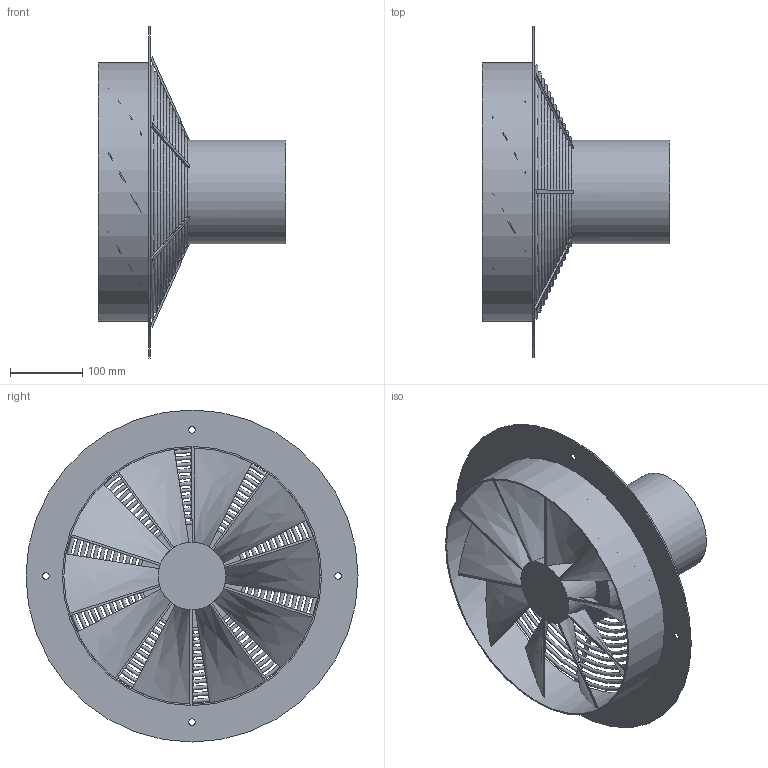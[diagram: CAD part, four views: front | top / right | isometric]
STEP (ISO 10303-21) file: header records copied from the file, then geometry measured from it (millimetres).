
FILE_DESCRIPTION(/* description */ (''),/* implementation_level */ '2;1');
FILE_NAME(/* name */ 'Z:\Output\HWW 355-4-01006-021.stp',/* time_stamp */ '2017-06-08T19:39:26+02:00',/* author */ ('Engineering1'),/* organization */ (''),/* preprocessor_version */ 'ST-DEVELOPER v16.5',/* originating_system */ 'Autodesk Inventor 2017',/* authorisation */ '');
FILE_SCHEMA (('AUTOMOTIVE_DESIGN { 1 0 10303 214 3 1 1 }'));
Length unit declared in the file: millimetre
Products named in the file (1): HW-1
Bounding box: 260 x 460 x 460 mm (x, y, z)
Volume: 4116306.4 mm3; surface area: 775916.9 mm2
Topology: 5 solids, 5 shells, 162 faces, 583 edges, 378 vertices
Faces by surface type: plane 110, bspline 30, torus 12, cylinder 10
Full cylindrical faces by diameter (mm): 9 x4, 93.6 x1, 143.6 x2, 355 x1, 359 x1, 460 x1
Entity records: 7238 total; most frequent: CARTESIAN_POINT 2065, ORIENTED_EDGE 1130, DIRECTION 948, EDGE_CURVE 549, VERTEX_POINT 365, AXIS2_PLACEMENT_3D 360, EDGE_LOOP 252, LINE 228
